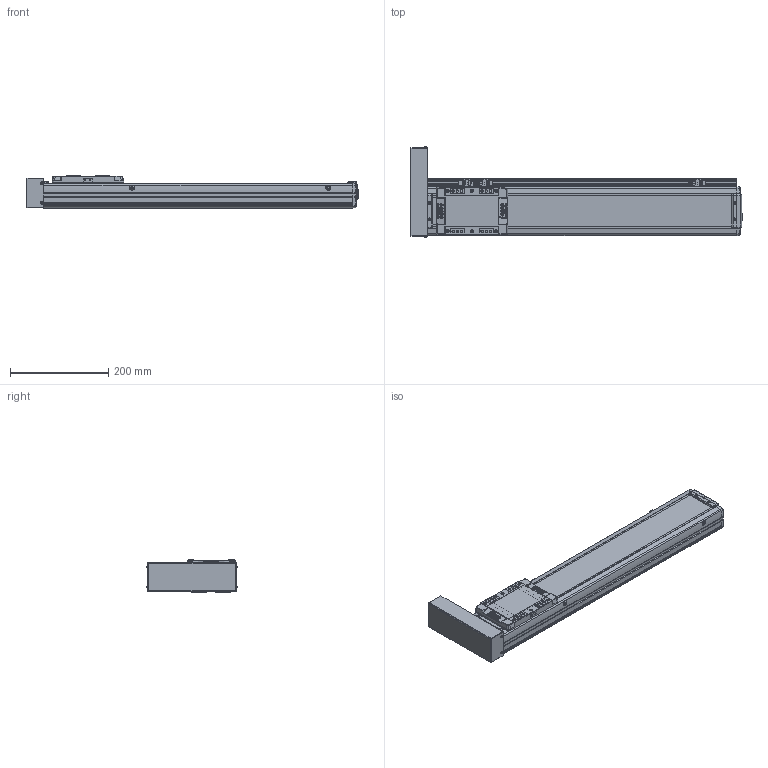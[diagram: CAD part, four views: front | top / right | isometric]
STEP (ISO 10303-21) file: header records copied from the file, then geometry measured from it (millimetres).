
FILE_DESCRIPTION(('STEP AP214'),'1');
FILE_NAME('Z:/Web/3D/SAN100/SAN100 양산용 (STEP)/SAN100ㅁㅁ-450PL+3SL.stp','2013-04-26T00:20:17',(' '),(' '),'Spatial InterOp 3D',' ',' ');
FILE_SCHEMA(('automotive_design'));
Length unit declared in the file: millimetre
Products named in the file (49): SGD-SAN100; M3.0 x 6.0; SRL-16x17-380L; EE-SX674; SBK-SX674-352; 스크루 : Round - M3.0 x 6.0; BTCV-SAN65; BHCS M3 X 6L; SUS COVER; SFX-SAN100; RRCV-SAN100; 스크루 : Round - M4.0 x 10.0; FRBL-SAN100; SLBL-SAN100; SLCV-SAN100; 스크루 : Countersunk - M3.0 x 6.0; BASE; 스크루 : Round - M5.0 x 6.0
Bounding box: 676.5 x 184.13 x 66 mm (x, y, z)
Volume: 2225049.2 mm3; surface area: 571909.8 mm2
Topology: 49 solids, 50 shells, 2369 faces, 6172 edges, 3997 vertices
Faces by surface type: plane 1282, cylinder 799, cone 190, sphere 64, torus 18, bspline 16
Entity records: 93348 total; most frequent: CARTESIAN_POINT 13865, DIRECTION 12979, ORIENTED_EDGE 12172, EDGE_CURVE 6086, AXIS2_PLACEMENT_3D 4580, VERTEX_POINT 3997, LINE 3819, VECTOR 3819
